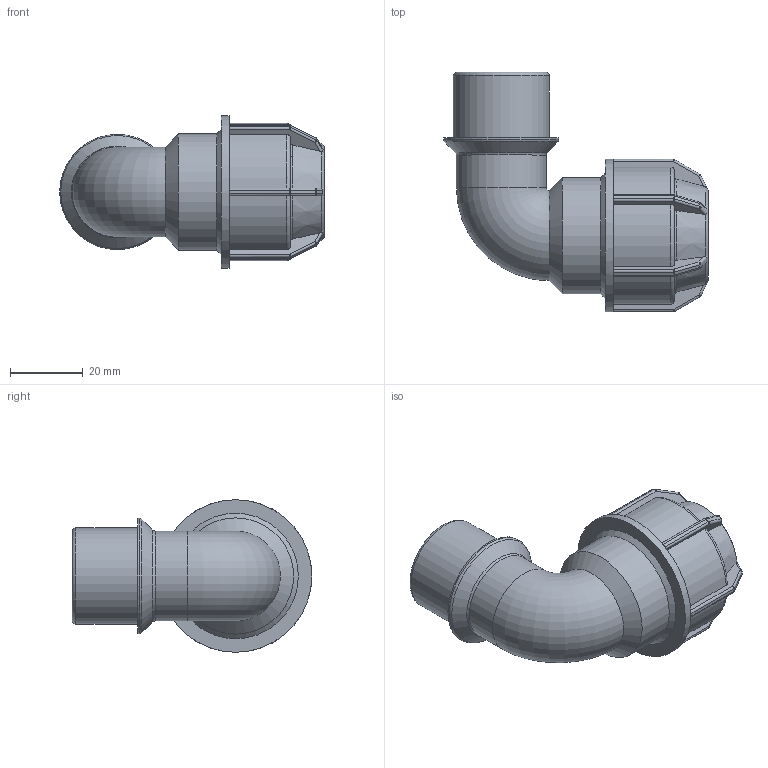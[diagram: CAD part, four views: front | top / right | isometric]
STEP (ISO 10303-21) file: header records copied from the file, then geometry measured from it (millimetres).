
FILE_DESCRIPTION(/* description */ ('PLASSON L.14 90° ELBOW MALE ADAPTOR (SILVER) 20-3/4"'),/* implementation_level */ '2;1');
FILE_NAME(/* name */ 'C:\Dropbox\KIMPROJECTS-Inventor\99-16-3568-Processing\Silver+MF ISRAEL\148500\148500020007.ipt.stp',/* time_stamp */ '2018-04-09T13:05:42+03:00',/* author */ ('KIM'),/* organization */ (''),/* preprocessor_version */ 'ST-DEVELOPER v15.6',/* originating_system */ 'Autodesk Inventor 2015',/* authorisation */ '');
FILE_SCHEMA (('AUTOMOTIVE_DESIGN { 1 0 10303 214 3 1 1 }'));
Length unit declared in the file: millimetre
Products named in the file (1): 148500020007
Bounding box: 72.86 x 66 x 42 mm (x, y, z)
Volume: 40126.7 mm3; surface area: 17556.2 mm2
Topology: 1 solids, 1 shells, 214 faces, 502 edges, 288 vertices
Faces by surface type: plane 98, cylinder 63, sphere 24, torus 19, cone 10
Full cylindrical faces by diameter (mm): 18.509 x2, 20 x2, 24.722 x1, 26.441 x1, 31.729 x1, 32 x1, 42 x1
Entity records: 6134 total; most frequent: CARTESIAN_POINT 1555, DIRECTION 966, ORIENTED_EDGE 924, EDGE_CURVE 462, AXIS2_PLACEMENT_3D 393, VERTEX_POINT 276, EDGE_LOOP 238, FACE_OUTER_BOUND 212
